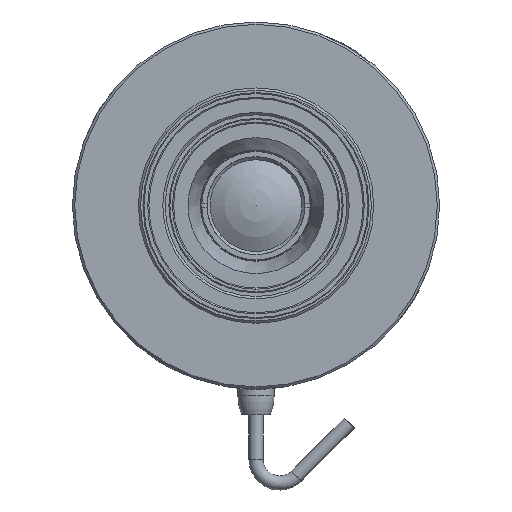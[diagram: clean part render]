
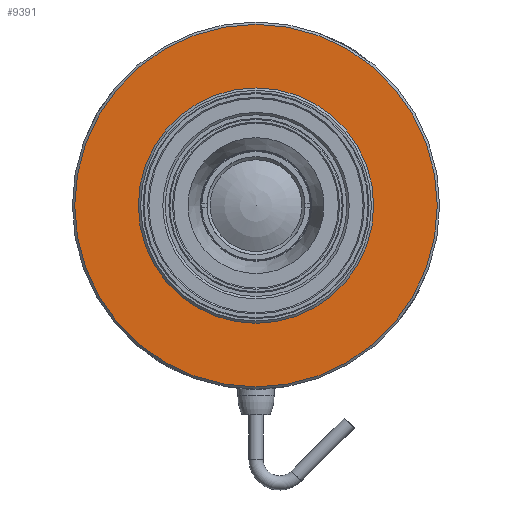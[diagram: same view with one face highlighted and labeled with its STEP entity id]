
A CAD part, front view. The second image highlights one B-rep face of the part: STEP entity #9391.
In plain terms, the highlighted planar face has unit normal (0, -1, 0).
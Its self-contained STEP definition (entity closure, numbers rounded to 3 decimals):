
#1517=PLANE('',#9917);
#2517=ORIENTED_EDGE('',*,*,#3788,.F.);
#2518=ORIENTED_EDGE('',*,*,#3806,.T.);
#3788=EDGE_CURVE('',#4516,#4516,#4912,.T.);
#3806=EDGE_CURVE('',#4534,#4534,#4926,.T.);
#4516=VERTEX_POINT('',#13017);
#4534=VERTEX_POINT('',#13105);
#4912=CIRCLE('',#9892,25.);
#4926=CIRCLE('',#9918,38.5);
#5305=EDGE_LOOP('',(#2517));
#5306=EDGE_LOOP('',(#2518));
#5898=FACE_BOUND('',#5305,.T.);
#5899=FACE_BOUND('',#5306,.T.);
#9391=ADVANCED_FACE('',(#5898,#5899),#1517,.T.);
#9892=AXIS2_PLACEMENT_3D('',#13016,#11126,#11127);
#9917=AXIS2_PLACEMENT_3D('',#13103,#11176,#11177);
#9918=AXIS2_PLACEMENT_3D('',#13104,#11178,#11179);
#11126=DIRECTION('',(0.,-1.,0.));
#11127=DIRECTION('',(0.,0.,-1.));
#11176=DIRECTION('',(0.,-1.,0.));
#11177=DIRECTION('',(0.,0.,-1.));
#11178=DIRECTION('',(0.,-1.,0.));
#11179=DIRECTION('',(0.,0.,-1.));
#13016=CARTESIAN_POINT('',(0.,-58.,0.));
#13017=CARTESIAN_POINT('',(0.,-58.,-25.));
#13103=CARTESIAN_POINT('',(0.,-58.,25.));
#13104=CARTESIAN_POINT('',(0.,-58.,0.));
#13105=CARTESIAN_POINT('',(0.,-58.,-38.5));
